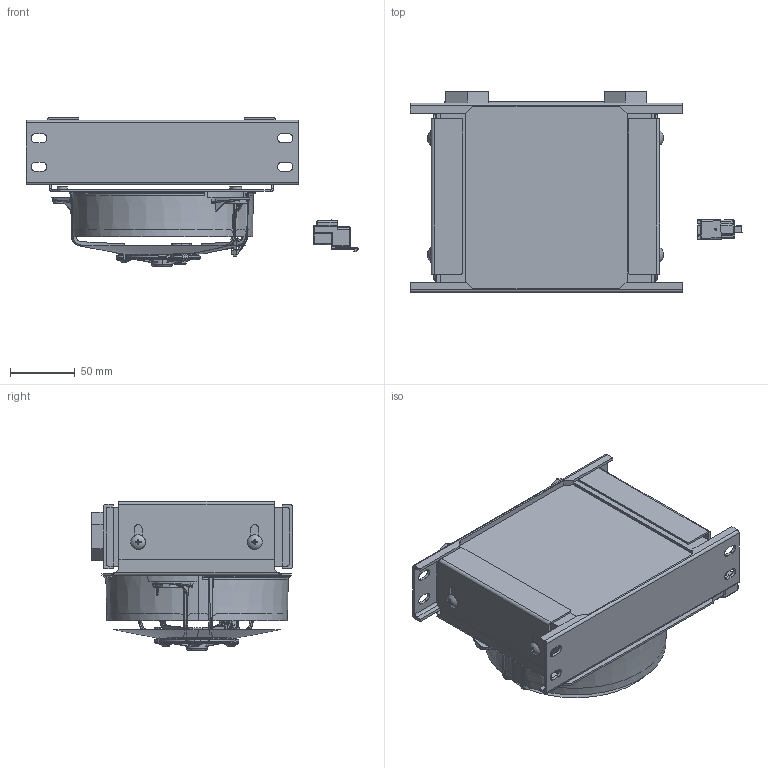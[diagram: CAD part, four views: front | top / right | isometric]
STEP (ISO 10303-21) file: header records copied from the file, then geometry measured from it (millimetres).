
FILE_DESCRIPTION((''),'2;1');
FILE_NAME('C:\Documents and Settings\Administrator\My Documents\Setrab\Fanpacks\FP119\FP119M22I.stp','2016-12-14T13:17:08',('Administrator'),(''),'Autodesk Inventor 2008','Autodesk Inventor 2008','');
FILE_SCHEMA(('AUTOMOTIVE_DESIGN { 1 0 10303 214 1 1 1 1 }'));
Length unit declared in the file: millimetre
Products named in the file (7): FP119 rev040116; FP119 E rev040116; 95185A170 8-32 self clinch nut; STD 119 M22I; Bolt 10-24 -25 THP; Spal VA31 FAN30103011; FP920 side plate
Assembly tree (16 placements, depth 2):
  FP119 rev040116
    FP119 E rev040116
    95185A170 8-32 self clinch nut  x7
    STD 119 M22I
    Bolt 10-24 -25 THP  x4
    Spal VA31 FAN30103011
    FP920 side plate  x2
Bounding box: 256.14 x 154.89 x 115.39 mm (x, y, z)
Volume: 1086668.3 mm3; surface area: 247882 mm2
Topology: 15 solids, 1166 shells, 2595 faces, 10926 edges, 9511 vertices
Faces by surface type: plane 1387, bspline 779, cylinder 356, cone 69, sphere 4
Full cylindrical faces by diameter (mm): 6.35 x7, 7.874 x7, 11.379 x4, 138 x1
Entity records: 448136 total; most frequent: CARTESIAN_POINT 389893, ORIENTED_EDGE 8638, EDGE_CURVE 7539, VERTEX_POINT 7187, DIRECTION 6886, VECTOR 3390, LINE 3390, B_SPLINE_CURVE_WITH_KNOTS 2437
